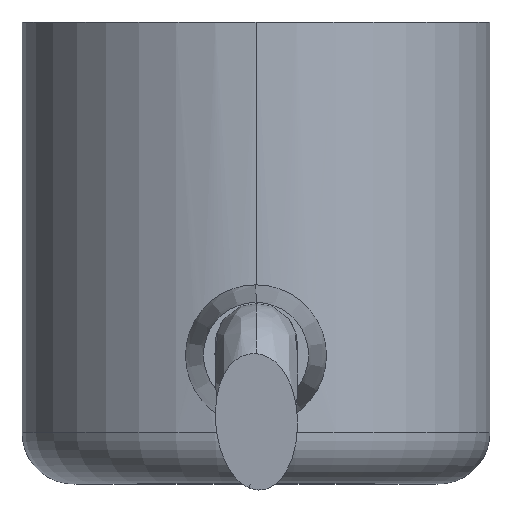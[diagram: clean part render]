
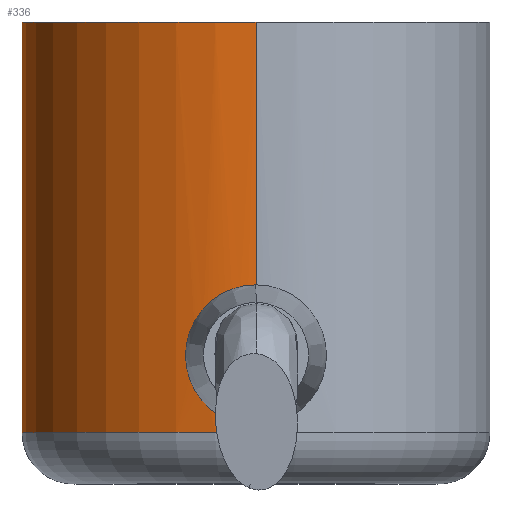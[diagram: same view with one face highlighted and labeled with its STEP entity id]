
A CAD part, top view. The second image highlights one B-rep face of the part: STEP entity #336.
In plain terms, the highlighted cylindrical face has radius 18.25 mm (diameter 36.5 mm), a partial arc.
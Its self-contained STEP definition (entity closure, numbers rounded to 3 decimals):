
#238 = VERTEX_POINT ( 'NONE', #965 ) ;
#269 = EDGE_CURVE ( 'NONE', #238, #322, #1101, .T. ) ;
#270 = EDGE_CURVE ( 'NONE', #349, #238, #1079, .T. ) ;
#275 = VERTEX_POINT ( 'NONE', #1035 ) ;
#278 = VERTEX_POINT ( 'NONE', #1029 ) ;
#280 = EDGE_CURVE ( 'NONE', #315, #278, #1028, .T. ) ;
#315 = VERTEX_POINT ( 'NONE', #1230 ) ;
#322 = VERTEX_POINT ( 'NONE', #1221 ) ;
#336 = ADVANCED_FACE ( 'NONE', ( #1269 ), #1268, .T. ) ;
#337 = EDGE_LOOP ( 'NONE', ( #338, #354, #356, #357, #358, #360, #361 ) ) ;
#338 = ORIENTED_EDGE ( 'NONE', *, *, #353, .F. ) ;
#345 = VERTEX_POINT ( 'NONE', #1243 ) ;
#349 = VERTEX_POINT ( 'NONE', #1296 ) ;
#353 = EDGE_CURVE ( 'NONE', #345, #275, #1295, .T. ) ;
#354 = ORIENTED_EDGE ( 'NONE', *, *, #355, .T. ) ;
#355 = EDGE_CURVE ( 'NONE', #345, #349, #1291, .T. ) ;
#356 = ORIENTED_EDGE ( 'NONE', *, *, #270, .T. ) ;
#357 = ORIENTED_EDGE ( 'NONE', *, *, #269, .T. ) ;
#358 = ORIENTED_EDGE ( 'NONE', *, *, #359, .T. ) ;
#359 = EDGE_CURVE ( 'NONE', #322, #315, #1362, .T. ) ;
#360 = ORIENTED_EDGE ( 'NONE', *, *, #280, .T. ) ;
#361 = ORIENTED_EDGE ( 'NONE', *, *, #362, .F. ) ;
#362 = EDGE_CURVE ( 'NONE', #275, #278, #1335, .T. ) ;
#965 = CARTESIAN_POINT ( 'NONE',  ( 0., 5.25, 18.25 ) ) ;
#1025 = DIRECTION ( 'NONE',  ( 0., 1., 0. ) ) ;
#1026 = VECTOR ( 'NONE', #1025, 1000. ) ;
#1027 = CARTESIAN_POINT ( 'NONE',  ( 0., 45.075, 18.25 ) ) ;
#1028 = LINE ( 'NONE', #1027, #1026 ) ;
#1029 = CARTESIAN_POINT ( 'NONE',  ( 0., 36., 18.25 ) ) ;
#1035 = CARTESIAN_POINT ( 'NONE',  ( 0., 36., -18.25 ) ) ;
#1076 = DIRECTION ( 'NONE',  ( 0., 1., 0. ) ) ;
#1077 = VECTOR ( 'NONE', #1076, 1000. ) ;
#1078 = CARTESIAN_POINT ( 'NONE',  ( 0., 45.075, 18.25 ) ) ;
#1079 = LINE ( 'NONE', #1078, #1077 ) ;
#1080 = CARTESIAN_POINT ( 'NONE',  ( -4.75, 10., 17.621 ) ) ;
#1081 = CARTESIAN_POINT ( 'NONE',  ( -4.75, 9.689, 17.621 ) ) ;
#1082 = CARTESIAN_POINT ( 'NONE',  ( -4.72, 9.379, 17.629 ) ) ;
#1083 = CARTESIAN_POINT ( 'NONE',  ( -4.597, 8.765, 17.662 ) ) ;
#1084 = CARTESIAN_POINT ( 'NONE',  ( -4.506, 8.464, 17.686 ) ) ;
#1085 = CARTESIAN_POINT ( 'NONE',  ( -4.268, 7.893, 17.744 ) ) ;
#1086 = CARTESIAN_POINT ( 'NONE',  ( -4.122, 7.619, 17.779 ) ) ;
#1087 = CARTESIAN_POINT ( 'NONE',  ( -3.775, 7.1, 17.856 ) ) ;
#1088 = CARTESIAN_POINT ( 'NONE',  ( -3.579, 6.861, 17.897 ) ) ;
#1089 = CARTESIAN_POINT ( 'NONE',  ( -3.143, 6.425, 17.979 ) ) ;
#1090 = CARTESIAN_POINT ( 'NONE',  ( -2.9, 6.225, 18.02 ) ) ;
#1091 = CARTESIAN_POINT ( 'NONE',  ( -2.384, 5.88, 18.095 ) ) ;
#1092 = CARTESIAN_POINT ( 'NONE',  ( -2.112, 5.734, 18.13 ) ) ;
#1093 = CARTESIAN_POINT ( 'NONE',  ( -1.537, 5.495, 18.187 ) ) ;
#1094 = CARTESIAN_POINT ( 'NONE',  ( -1.234, 5.403, 18.211 ) ) ;
#1095 = CARTESIAN_POINT ( 'NONE',  ( -0.625, 5.281, 18.242 ) ) ;
#1096 = CARTESIAN_POINT ( 'NONE',  ( -0.315, 5.25, 18.25 ) ) ;
#1100 = CARTESIAN_POINT ( 'NONE',  ( 0., 5.25, 18.25 ) ) ;
#1101 = B_SPLINE_CURVE_WITH_KNOTS ( 'NONE', 3,
 ( #1100, #1096, #1095, #1094, #1093, #1092, #1091, #1090, #1089, #1088, #1087, #1086, #1085, #1084, #1083, #1082, #1081, #1080 ),
 .UNSPECIFIED., .F., .F.,
 ( 4, 2, 2, 2, 2, 2, 2, 2, 4 ),
 ( 0., 0.001, 0.002, 0.003, 0.004, 0.005, 0.006, 0.007, 0.007 ),
 .UNSPECIFIED. ) ;
#1221 = CARTESIAN_POINT ( 'NONE',  ( -4.75, 10., 17.621 ) ) ;
#1230 = CARTESIAN_POINT ( 'NONE',  ( 0., 14.75, 18.25 ) ) ;
#1243 = CARTESIAN_POINT ( 'NONE',  ( 0., 4., -18.25 ) ) ;
#1250 = DIRECTION ( 'NONE',  ( 0., 0., 1. ) ) ;
#1251 = DIRECTION ( 'NONE',  ( 0., 1., 0. ) ) ;
#1252 = CARTESIAN_POINT ( 'NONE',  ( 0., 45.075, 0. ) ) ;
#1254 = AXIS2_PLACEMENT_3D ( 'NONE', #1252, #1251, #1250 ) ;
#1268 = CYLINDRICAL_SURFACE ( 'NONE', #1254, 18.25 ) ;
#1269 = FACE_OUTER_BOUND ( 'NONE', #337, .T. ) ;
#1287 = DIRECTION ( 'NONE',  ( 0., 0., 1. ) ) ;
#1288 = DIRECTION ( 'NONE',  ( 0., 1., 0. ) ) ;
#1289 = CARTESIAN_POINT ( 'NONE',  ( 0., 4., 0. ) ) ;
#1290 = AXIS2_PLACEMENT_3D ( 'NONE', #1289, #1288, #1287 ) ;
#1291 = CIRCLE ( 'NONE', #1290, 18.25 ) ;
#1292 = DIRECTION ( 'NONE',  ( 0., 1., 0. ) ) ;
#1293 = VECTOR ( 'NONE', #1292, 1000. ) ;
#1294 = CARTESIAN_POINT ( 'NONE',  ( 0., 45.075, -18.25 ) ) ;
#1295 = LINE ( 'NONE', #1294, #1293 ) ;
#1296 = CARTESIAN_POINT ( 'NONE',  ( 0., 4., 18.25 ) ) ;
#1332 = DIRECTION ( 'NONE',  ( 0., 0., 1. ) ) ;
#1333 = DIRECTION ( 'NONE',  ( 0., 1., 0. ) ) ;
#1334 = AXIS2_PLACEMENT_3D ( 'NONE', #1361, #1333, #1332 ) ;
#1335 = CIRCLE ( 'NONE', #1334, 18.25 ) ;
#1337 = CARTESIAN_POINT ( 'NONE',  ( 0., 14.75, 18.25 ) ) ;
#1338 = CARTESIAN_POINT ( 'NONE',  ( -0.155, 14.75, 18.25 ) ) ;
#1339 = CARTESIAN_POINT ( 'NONE',  ( -0.311, 14.742, 18.248 ) ) ;
#1340 = CARTESIAN_POINT ( 'NONE',  ( -0.623, 14.712, 18.24 ) ) ;
#1341 = CARTESIAN_POINT ( 'NONE',  ( -0.779, 14.688, 18.234 ) ) ;
#1342 = CARTESIAN_POINT ( 'NONE',  ( -1.238, 14.596, 18.211 ) ) ;
#1343 = CARTESIAN_POINT ( 'NONE',  ( -1.534, 14.506, 18.188 ) ) ;
#1344 = CARTESIAN_POINT ( 'NONE',  ( -2.107, 14.268, 18.13 ) ) ;
#1345 = CARTESIAN_POINT ( 'NONE',  ( -2.386, 14.119, 18.095 ) ) ;
#1346 = CARTESIAN_POINT ( 'NONE',  ( -2.899, 13.775, 18.02 ) ) ;
#1347 = CARTESIAN_POINT ( 'NONE',  ( -3.137, 13.58, 17.98 ) ) ;
#1348 = CARTESIAN_POINT ( 'NONE',  ( -3.577, 13.141, 17.897 ) ) ;
#1349 = CARTESIAN_POINT ( 'NONE',  ( -3.775, 12.899, 17.856 ) ) ;
#1350 = CARTESIAN_POINT ( 'NONE',  ( -4.119, 12.387, 17.78 ) ) ;
#1351 = CARTESIAN_POINT ( 'NONE',  ( -4.267, 12.111, 17.745 ) ) ;
#1352 = CARTESIAN_POINT ( 'NONE',  ( -4.506, 11.534, 17.685 ) ) ;
#1353 = CARTESIAN_POINT ( 'NONE',  ( -4.596, 11.238, 17.662 ) ) ;
#1354 = CARTESIAN_POINT ( 'NONE',  ( -4.719, 10.627, 17.63 ) ) ;
#1359 = CARTESIAN_POINT ( 'NONE',  ( -4.75, 10.311, 17.621 ) ) ;
#1360 = CARTESIAN_POINT ( 'NONE',  ( -4.75, 10., 17.621 ) ) ;
#1361 = CARTESIAN_POINT ( 'NONE',  ( 0., 36., 0. ) ) ;
#1362 = B_SPLINE_CURVE_WITH_KNOTS ( 'NONE', 3,
 ( #1360, #1359, #1354, #1353, #1352, #1351, #1350, #1349, #1348, #1347, #1346, #1345, #1344, #1343, #1342, #1341, #1340, #1339, #1338, #1337 ),
 .UNSPECIFIED., .F., .F.,
 ( 4, 2, 2, 2, 2, 2, 2, 2, 2, 4 ),
 ( 0.007, 0.008, 0.009, 0.01, 0.011, 0.012, 0.013, 0.014, 0.014, 0.015 ),
 .UNSPECIFIED. ) ;
